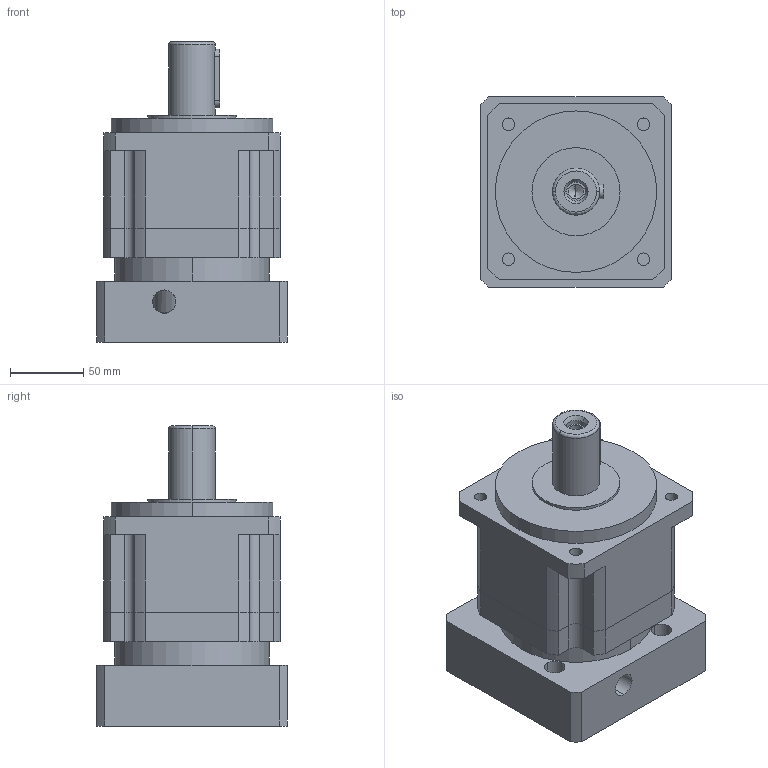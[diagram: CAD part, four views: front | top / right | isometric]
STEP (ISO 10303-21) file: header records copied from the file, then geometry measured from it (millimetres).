
FILE_DESCRIPTION (( 'STEP AP203' ), '1' );
FILE_NAME ('PAG120-L1-22-110-145.STEP', '2022-07-20T02:48:09', ( 'Windows User' ), ( 'P R C' ), 'SwSTEP 2.0', 'SolidWorks 2016', '' );
FILE_SCHEMA (( 'CONFIG_CONTROL_DESIGN' ));
Length unit declared in the file: millimetre
Products named in the file (7): 囀鞠褒蹟佪-M8℅25; 邧埴瑩 10x8x40; 粣創-6009 45x75x16; PAG120-L1-22-110-145; PAG120-本体齿圈; PAG120-薊粣ん_LZ03; PAG120-帣釱-LR71
Assembly tree (6 placements, depth 2):
  PAG120-L1-22-110-145
    PAG120-本体齿圈
    PAG120-薊粣ん_LZ03
    PAG120-帣釱-LR71
    囀鞠褒蹟佪-M8℅25
    邧埴瑩 10x8x40
    粣創-6009 45x75x16
Bounding box: 130 x 130 x 204.5 mm (x, y, z)
Volume: 1771122.4 mm3; surface area: 220572.7 mm2
Topology: 6 solids, 6 shells, 438 faces, 1247 edges, 812 vertices
Faces by surface type: cylinder 165, bspline 134, plane 123, cone 16
Entity records: 20584 total; most frequent: CARTESIAN_POINT 9147, ORIENTED_EDGE 2466, DIRECTION 2013, EDGE_CURVE 1233, AXIS2_PLACEMENT_3D 834, VERTEX_POINT 808, CIRCLE 521, EDGE_LOOP 521
